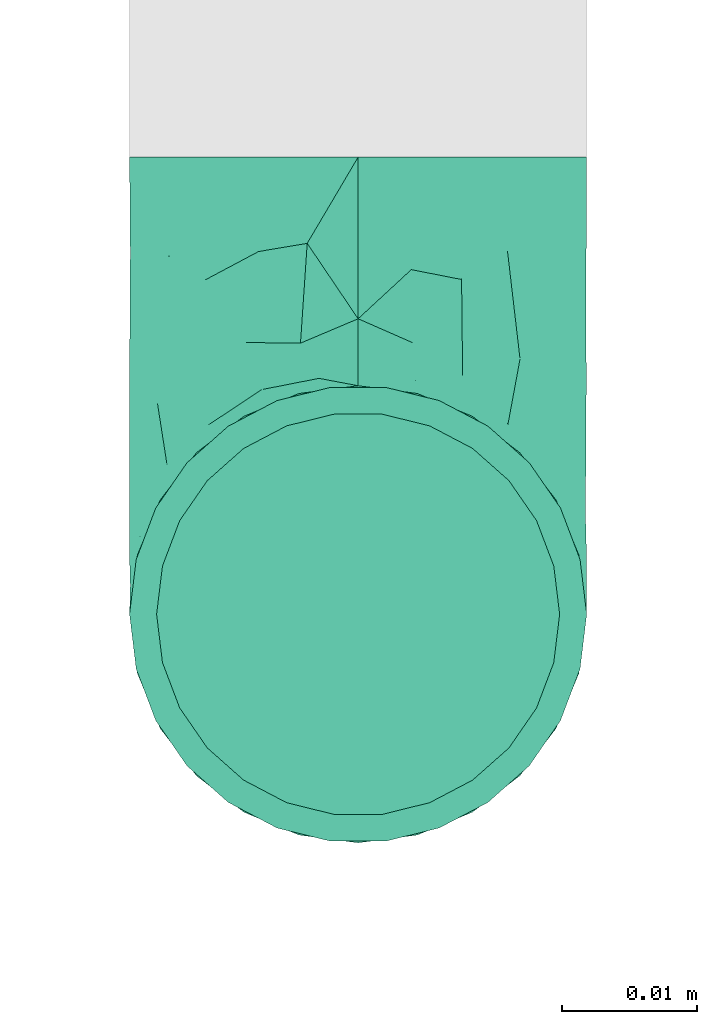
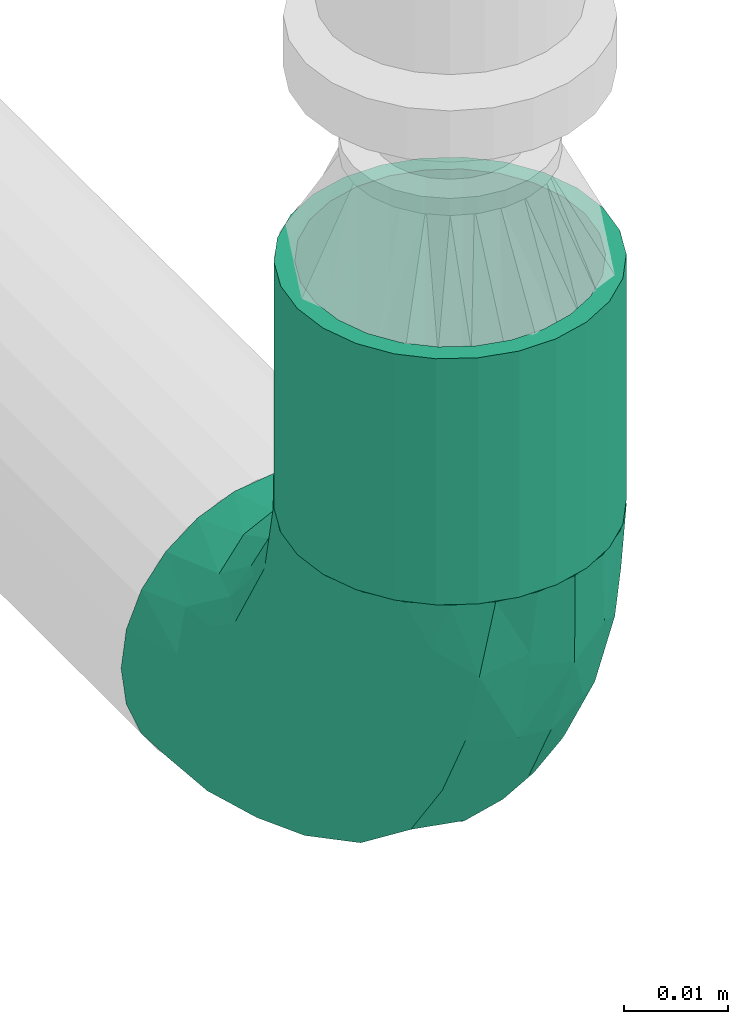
# One storey, part 2 of 31: 1 flow fitting, 1 flow segment.
"""IFC2X3 building model written with IfcOpenShell, lengths in millimetres."""

from ifc_helpers import new_model, entity, si_unit, converted_unit, derived_unit, direction, frame, origin_with_axes, origin_2d_with_axis, place, context, subcontext, project, spatial, hollow_circle, extrude, open_shell, surface_model, source, transform, mapped, type_object, element, save


model = new_model("IFC2X3")

# Units and contexts
model_context = context("Model", 3, precision=0.01, world=frame((0.0, 4.29681676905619e-09, 0.0)), true_north=direction((4.01073788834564e-13, 1.0)))
plan_context = context("Plan", 3, precision=0.01, world=frame((0.0, 4.29681676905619e-09, 0.0)), true_north=direction((4.01073788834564e-13, 1.0)))
body_context = subcontext(model_context, "Body", "Model", "MODEL_VIEW")
ifc_project = project(units=[converted_unit("PLANEANGLEUNIT", "DEGREE", entity("IfcPositiveLengthMeasure", 0.0174532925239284), si_unit("PLANEANGLEUNIT", "RADIAN"), dimensions=[0, 0, 0, 0, 0, 0, 0]), si_unit("AREAUNIT", "SQUARE_METRE"), si_unit("LENGTHUNIT", "METRE", prefix="MILLI"), si_unit("MASSUNIT", "GRAM", prefix="KILO"), si_unit("POWERUNIT", "WATT"), si_unit("PRESSUREUNIT", "PASCAL", prefix="KILO"), si_unit("FORCEUNIT", "NEWTON", prefix="KILO"), si_unit("ELECTRICVOLTAGEUNIT", "VOLT"), si_unit("ELECTRICCURRENTUNIT", "AMPERE"), si_unit("THERMODYNAMICTEMPERATUREUNIT", "DEGREE_CELSIUS"), si_unit("TIMEUNIT", "SECOND"), si_unit("VOLUMEUNIT", "CUBIC_METRE"), derived_unit("LINEARVELOCITYUNIT", [(si_unit("LENGTHUNIT", "METRE"), 1), (si_unit("TIMEUNIT", "SECOND"), -1)]), derived_unit("VOLUMETRICFLOWRATEUNIT", [(si_unit("VOLUMEUNIT", "CUBIC_METRE"), 1), (si_unit("TIMEUNIT", "SECOND"), -1)]), derived_unit("THERMALTRANSMITTANCEUNIT", [(si_unit("POWERUNIT", "WATT"), 1), (si_unit("THERMODYNAMICTEMPERATUREUNIT", "KELVIN"), -1), (si_unit("AREAUNIT", "SQUARE_METRE"), -1)]), derived_unit("SOUNDPRESSUREUNIT", [(si_unit("PRESSUREUNIT", "PASCAL"), 1)])], contexts=[model_context, plan_context])

# Site, building, storey
site_placement = place(None, frame((0.0, -4.29681676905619e-09, 0.0), z_axis=(0.0, 0.0, 1.0), x_axis=(1.0, 0.0, 0.0)))
site = spatial("IfcSite", under=ifc_project, at=site_placement, CompositionType="ELEMENT")
building_placement = place(site_placement, frame((0.0, 4.29681676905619e-09, 0.0), z_axis=(0.0, 0.0, 1.0), x_axis=(1.0, 0.0, 0.0)))
building = spatial("IfcBuilding", under=site, at=building_placement, Name="mc-building", CompositionType="ELEMENT")
storey_placement = place(building_placement, frame((0.0, 0.0, 200300.0), z_axis=(0.0, 0.0, 1.0), x_axis=(1.0, 0.0, 0.0)))
storey = spatial("IfcBuildingStorey", under=building, at=storey_placement, Name="Nivå C", CompositionType="ELEMENT", Elevation=200300.0)

# Flow fitting
pipe_fitting_type = type_object("IfcPipeFittingType", Name="magi_pipe_fe_elbow_short_001", PredefinedType="BEND")
shared_shape_1 = source(origin_with_axes(), body_context, "Body", "SurfaceModel", [
    surface_model("IfcShellBasedSurfaceModel", [(-33.8, 8.45, -14.63583), (-33.8, 4.37404, -16.32415), (-33.8, 11.9501, -11.9501), (-33.8, -11.9501, -11.9501), (-33.8, -14.63583, -8.45), (-33.8, -8.45, -14.63583), (-33.8, 0.0, -16.9), (-33.8, -4.37404, -16.32415), (-33.8, -4.37404, 16.32415), (-33.8, 0.0, 16.9), (-33.8, -8.45, 14.63583), (-33.8, 16.32415, -4.37404), (-33.8, 14.63583, -8.45), (-33.8, -16.32415, -4.37404), (-33.8, -16.9, 0.0), (-33.8, -16.32415, 4.37404), (-33.8, 11.9501, 11.9501), (-33.8, 14.63583, 8.45), (-33.8, 16.32415, 4.37404), (-33.8, 4.37404, 16.32415), (-33.8, 8.45, 14.63583), (-33.8, -14.63583, 8.45), (-33.8, -11.9501, 11.9501), (-33.8, 16.9, 0.0), (-11.9501, 33.8, -11.9501), (0.0, 33.8, -16.9), (-4.37404, 33.8, -16.32415), (-8.45, 33.8, -14.63583), (-14.63583, 33.8, -8.45), (-16.32415, 33.8, -4.37404), (14.63583, 33.8, -8.45), (8.45, 33.8, 14.63583), (16.32415, 33.8, -4.37404), (8.45, 33.8, -14.63583), (11.9501, 33.8, -11.9501), (4.37404, 33.8, -16.32415), (16.32415, 33.8, 4.37404), (16.9, 33.8, 0.0), (-11.9501, 33.8, 11.9501), (-16.32415, 33.8, 4.37404), (-14.63583, 33.8, 8.45), (-8.45, 33.8, 14.63583), (-4.37404, 33.8, 16.32415), (11.9501, 33.8, 11.9501), (14.63583, 33.8, 8.45), (0.0, 33.8, 16.9), (4.37404, 33.8, 16.32415), (-16.9, 33.8, 0.0), (-24.79389, -13.12945, 9.48721), (-22.19287, -9.75018, 12.59315), (-24.09897, -14.97035, 0.0), (-14.93934, -10.76256, 8.5297), (-22.46095, -14.75051, 5.27077), (14.75051, 22.46094, 5.27077), (11.9251, 13.23888, 4.33236), (13.04069, 14.39795, 0.0), (7.71387, 13.68847, 11.55891), (9.75018, 22.19287, 12.59315), (4.10169, 13.0571, 14.04018), (-24.84007, -6.39063, 15.2048), (-25.81779, -2.23879, 16.61097), (-23.66549, 2.59054, 16.87119), (-26.50418, 14.06512, 11.08152), (-24.21253, 17.66365, 7.72657), (-29.58514, 15.86957, 7.00283), (-6.17382, -7.5455, 0.0), (-13.23888, -11.9251, 4.33236), (-14.39795, -13.04069, 0.0), (-17.81434, 18.87373, 11.97104), (-6.30846, 29.15138, 15.82987), (-2.31622, 25.28002, 16.85849), (-29.23923, 10.23435, 13.77053), (-1.45439, -2.85688, 7.61475), (-0.28326, 0.34872, 10.09509), (-5.74484, -4.04709, 10.4122), (-4.41137, 11.31918, 16.59407), (-8.39727, 3.10034, 15.7812), (-1.72649, 9.1306, 15.53089), (-17.39909, 24.75344, 7.64977), (-26.19233, 20.0512, 0.0), (-28.14518, 17.29657, 4.25857), (-26.05147, 6.6281, 15.96447), (-5.87354, 16.61944, 16.86968), (-12.51807, 12.51807, 16.48937), (-10.06312, 7.38516, 16.81295), (-3.01882, 3.01882, 13.81718), (-13.0571, -4.10169, 14.04018), (-16.82553, -0.15166, 16.38038), (10.76256, 14.93934, 8.5297), (13.12945, 24.79389, 9.48721), (6.39063, 24.84007, 15.2048), (2.23879, 25.81779, 16.61097), (-13.68847, -7.71387, 11.55891), (14.97035, 24.09897, 0.0), (-7.30894, 22.89991, 16.09489), (-10.67958, 26.17414, 14.008), (-12.78295, 18.26924, 15.06066), (-13.88562, 22.45231, 12.93244), (-18.04944, 15.16501, 14.04434), (-23.11658, 20.08178, 4.02986), (-21.84989, 21.84989, 0.0), (-18.55817, 25.48277, 3.93065), (-13.95142, 26.94732, 11.03289), (-18.57098, 7.23906, 16.59756), (-16.58335, 4.14122, 16.89279), (-17.96666, 11.46709, 15.63151), (-9.84453, 17.54304, 16.18938), (0.15166, 16.82553, 16.38038), (-23.27207, 11.47201, 14.23154), (3.84842, 5.86994, 10.70473), (-8.0212, -7.54413, 7.93275), (1.00345, -2.19508, 4.57414), (5.13203, 3.01004, 5.90201), (5.24161, 1.7543, 2.53265), (8.70457, 7.04947, 3.99182), (-20.0512, 26.19233, 0.0), (8.4852, 8.76699, 7.09296), (-4.55488, -6.72064, 4.90681), (2.05031, -2.05031, 0.0), (7.5455, 6.17382, 0.0), (-26.75399, 2.1369, -16.845), (-14.61995, 24.73803, -11.27736), (-28.45274, -13.45335, -9.81895), (-26.00469, 6.63555, -15.96645), (-23.06726, 20.04573, -4.26202), (-13.80647, -4.26506, -14.17873), (-14.67501, -0.21081, -16.07388), (-6.7902, -0.2828, -13.8478), (-24.53586, 11.08096, -14.13417), (-26.72048, 14.00837, -11.05776), (10.0967, 24.44989, -12.75976), (5.83237, 21.40218, -15.03047), (6.66249, 28.54238, -15.38093), (-20.38182, 15.48705, -12.74596), (12.53268, 21.23441, -9.15363), (12.54494, 15.67504, -5.54878), (9.7522, 12.89279, -8.66343), (-15.65186, 19.64213, -13.01327), (-12.03528, 20.66498, -14.67665), (-15.61907, 15.61906, -14.83879), (-25.56551, -15.26206, 0.0), (-24.65452, -15.12934, -5.50955), (13.45335, 28.45274, -9.81895), (15.12934, 24.65452, -5.50955), (-7.35442, -8.31014, -5.65563), (-15.67504, -12.54494, -5.54878), (-24.44989, -10.0967, -12.75976), (0.16522, 0.41303, -9.71728), (-5.70658, -5.33066, -8.89288), (-5.13869, -2.37198, -11.53565), (-21.23441, -12.53268, -9.15363), (0.71146, 7.93863, -14.09382), (0.21081, 14.67501, -16.07388), (3.49291, 14.42772, -14.76381), (-24.89911, -2.13088, -16.591), (-28.54238, -6.66249, -15.38093), (-18.44386, -7.71663, -13.26957), (2.13088, 24.89911, -16.591), (-28.64342, 17.44413, -2.89318), (1.70017, -1.28722, -5.09504), (-16.57067, 26.81947, -7.36596), (-17.69055, 27.4263, -3.76405), (-12.89279, -9.7522, -8.66343), (-5.96611, 5.96611, -15.95814), (-20.53709, 20.09345, -8.28985), (-2.1369, 26.75399, -16.845), (-6.89872, 24.58781, -16.02578), (-10.60739, 26.53157, -13.98044), (-21.40218, -5.83237, -15.03047), (2.93192, 5.89627, -11.55917), (6.89393, 12.61842, -11.82233), (5.58056, 5.95325, -8.79455), (-3.99512, 18.61798, -16.89635), (8.31014, 7.35442, -5.65563), (-9.1383, 9.86148, -16.89041), (-9.99983, 16.02119, -16.39699), (-16.68576, 9.78031, -16.34199), (-27.01915, 16.61158, -7.12979), (15.26206, 25.56551, 0.0), (-18.61798, 3.99512, -16.89635), (-19.37495, 27.82495, 0.0), (-12.61842, -6.89393, -11.82233), (-18.84705, 19.14018, -10.96545)], [open_shell([[[0, 1, 2]], [[3, 4, 5]], [[6, 7, 5]], [[8, 9, 10]], [[1, 6, 2]], [[11, 12, 2]], [[4, 2, 6]], [[2, 13, 10]], [[5, 4, 6]], [[2, 4, 13]], [[14, 15, 13]], [[11, 2, 16]], [[11, 17, 18]], [[11, 16, 17]], [[19, 20, 16]], [[16, 2, 10]], [[19, 16, 10]], [[21, 22, 15]], [[22, 13, 15]], [[22, 10, 13]], [[10, 9, 19]], [[11, 18, 23]], [[24, 25, 26]], [[24, 26, 27]], [[24, 28, 29]], [[25, 24, 30]], [[31, 32, 24]], [[33, 30, 34]], [[33, 35, 25]], [[25, 30, 33]], [[32, 30, 24]], [[32, 36, 37]], [[38, 24, 29]], [[39, 40, 29]], [[40, 38, 29]], [[38, 41, 42]], [[38, 31, 24]], [[31, 38, 42]], [[36, 43, 44]], [[36, 32, 43]], [[31, 45, 46]], [[32, 31, 43]], [[42, 45, 31]], [[39, 29, 47]], [[22, 48, 49]], [[15, 14, 50]], [[51, 48, 52]], [[53, 54, 55]], [[48, 22, 21]], [[15, 52, 21]], [[56, 57, 58]], [[49, 10, 22]], [[49, 59, 10]], [[9, 60, 61]], [[62, 63, 64]], [[65, 66, 67]], [[57, 43, 31]], [[62, 68, 63]], [[42, 69, 70]], [[20, 71, 16]], [[8, 60, 9]], [[72, 73, 74]], [[75, 76, 77]], [[16, 62, 17]], [[40, 39, 78]], [[79, 23, 80]], [[64, 18, 17]], [[9, 61, 19]], [[19, 81, 20]], [[82, 83, 84]], [[74, 85, 86]], [[59, 86, 87]], [[88, 89, 57]], [[90, 31, 46]], [[44, 53, 36]], [[46, 45, 91]], [[54, 53, 88]], [[44, 89, 53]], [[92, 86, 49]], [[89, 44, 43]], [[10, 59, 8]], [[53, 55, 93]], [[93, 36, 53]], [[66, 52, 67]], [[94, 82, 70]], [[95, 96, 94]], [[97, 98, 96]], [[79, 99, 100]], [[41, 38, 95]], [[101, 100, 99]], [[68, 78, 63]], [[42, 41, 69]], [[23, 18, 80]], [[95, 94, 69]], [[78, 101, 99]], [[38, 102, 95]], [[70, 45, 42]], [[97, 95, 102]], [[15, 50, 52]], [[90, 57, 31]], [[57, 90, 58]], [[81, 19, 61]], [[103, 104, 84]], [[105, 81, 103]], [[38, 40, 102]], [[106, 96, 83]], [[94, 106, 82]], [[91, 70, 107]], [[71, 62, 16]], [[62, 108, 98]], [[86, 59, 49]], [[67, 52, 50]], [[60, 59, 87]], [[92, 49, 51]], [[86, 85, 76]], [[91, 90, 46]], [[37, 36, 93]], [[107, 77, 58]], [[107, 58, 90]], [[58, 85, 109]], [[110, 74, 92]], [[72, 74, 110]], [[66, 51, 52]], [[72, 111, 112]], [[113, 114, 112]], [[56, 88, 57]], [[52, 48, 21]], [[49, 48, 51]], [[57, 89, 43]], [[53, 89, 88]], [[103, 81, 61]], [[71, 81, 108]], [[18, 64, 80]], [[63, 78, 99]], [[47, 115, 101]], [[101, 115, 100]], [[40, 78, 102]], [[68, 102, 78]], [[97, 96, 95]], [[105, 98, 108]], [[103, 84, 83]], [[107, 70, 82]], [[76, 84, 87]], [[82, 84, 75]], [[70, 91, 45]], [[90, 91, 107]], [[59, 60, 8]], [[61, 60, 87]], [[73, 85, 74]], [[109, 112, 116]], [[103, 61, 104]], [[105, 103, 83]], [[96, 105, 83]], [[81, 105, 108]], [[96, 98, 105]], [[62, 98, 68]], [[61, 87, 104]], [[87, 84, 104]], [[86, 76, 87]], [[77, 76, 85]], [[58, 77, 85]], [[75, 77, 107]], [[82, 75, 107]], [[76, 75, 84]], [[81, 71, 20]], [[62, 71, 108]], [[95, 69, 41]], [[70, 69, 94]], [[62, 64, 17]], [[80, 63, 99]], [[63, 80, 64]], [[80, 99, 79]], [[66, 65, 117]], [[110, 66, 117]], [[112, 114, 116]], [[118, 117, 65]], [[110, 92, 51]], [[112, 111, 113]], [[119, 55, 54]], [[74, 86, 92]], [[58, 109, 56]], [[116, 56, 109]], [[66, 110, 51]], [[72, 110, 117]], [[111, 72, 117]], [[73, 112, 109]], [[117, 118, 111]], [[113, 111, 118]], [[118, 119, 113]], [[114, 119, 54]], [[119, 114, 113]], [[116, 54, 88]], [[54, 116, 114]], [[116, 88, 56]], [[112, 73, 72]], [[85, 73, 109]], [[78, 39, 101]], [[47, 101, 39]], [[102, 68, 97]], [[97, 68, 98]], [[82, 106, 83]], [[94, 96, 106]], [[1, 120, 6]], [[28, 24, 121]], [[3, 122, 4]], [[0, 123, 1]], [[100, 124, 79]], [[125, 126, 127]], [[128, 2, 129]], [[130, 131, 132]], [[128, 129, 133]], [[134, 135, 136]], [[137, 138, 139]], [[128, 0, 2]], [[67, 140, 141]], [[134, 142, 143]], [[141, 13, 4]], [[144, 65, 145]], [[146, 3, 5]], [[147, 148, 149]], [[145, 141, 150]], [[151, 152, 153]], [[154, 7, 6]], [[5, 155, 146]], [[150, 146, 156]], [[155, 5, 7]], [[143, 135, 134]], [[35, 157, 25]], [[23, 79, 158]], [[148, 159, 144]], [[160, 161, 29]], [[145, 162, 144]], [[163, 152, 151]], [[29, 28, 160]], [[121, 164, 160]], [[33, 34, 130]], [[25, 165, 26]], [[26, 165, 166]], [[142, 34, 30]], [[24, 27, 167]], [[124, 161, 164]], [[157, 35, 132]], [[155, 154, 168]], [[123, 0, 128]], [[169, 170, 171]], [[172, 157, 152]], [[26, 166, 27]], [[132, 35, 33]], [[142, 130, 34]], [[168, 154, 126]], [[136, 135, 173]], [[133, 137, 139]], [[2, 12, 129]], [[170, 131, 130]], [[30, 32, 143]], [[172, 174, 175]], [[176, 123, 128]], [[158, 177, 11]], [[135, 55, 119]], [[167, 27, 166]], [[175, 166, 172]], [[137, 167, 138]], [[122, 141, 4]], [[140, 14, 13]], [[32, 37, 178]], [[170, 130, 134]], [[152, 157, 131]], [[165, 157, 172]], [[153, 170, 151]], [[152, 163, 174]], [[168, 125, 156]], [[122, 146, 150]], [[120, 154, 6]], [[179, 174, 126]], [[179, 126, 154]], [[126, 163, 127]], [[162, 145, 150]], [[140, 13, 141]], [[32, 178, 143]], [[55, 143, 178]], [[177, 129, 12]], [[128, 133, 139]], [[176, 128, 139]], [[120, 123, 179]], [[121, 160, 28]], [[161, 100, 180]], [[166, 175, 138]], [[121, 24, 167]], [[161, 47, 29]], [[79, 124, 158]], [[124, 164, 177]], [[161, 124, 100]], [[136, 171, 170]], [[127, 163, 151]], [[147, 171, 159]], [[148, 144, 162]], [[127, 151, 169]], [[127, 181, 125]], [[129, 177, 164]], [[12, 11, 177]], [[159, 65, 144]], [[67, 141, 145]], [[143, 55, 135]], [[135, 119, 173]], [[123, 120, 1]], [[154, 120, 179]], [[157, 165, 25]], [[166, 165, 172]], [[172, 152, 174]], [[176, 139, 175]], [[126, 174, 163]], [[176, 174, 179]], [[174, 176, 175]], [[123, 176, 179]], [[150, 181, 162]], [[127, 149, 181]], [[181, 148, 162]], [[159, 148, 147]], [[171, 136, 173]], [[170, 134, 136]], [[159, 171, 173]], [[171, 147, 169]], [[169, 147, 149]], [[151, 170, 169]], [[164, 182, 129]], [[182, 121, 137]], [[181, 149, 148]], [[169, 149, 127]], [[182, 137, 133]], [[167, 137, 121]], [[166, 138, 167]], [[175, 139, 138]], [[129, 182, 133]], [[121, 182, 164]], [[161, 160, 164]], [[47, 161, 180]], [[177, 158, 124]], [[23, 158, 11]], [[130, 132, 33]], [[157, 132, 131]], [[143, 142, 30]], [[130, 142, 134]], [[154, 155, 7]], [[146, 155, 168]], [[146, 122, 3]], [[141, 122, 150]], [[152, 131, 153]], [[159, 119, 118]], [[67, 145, 65]], [[170, 153, 131]], [[119, 159, 173]], [[159, 118, 65]], [[156, 125, 181]], [[126, 125, 168]], [[150, 156, 181]], [[168, 156, 146]]])]),
])
flow_fitting_placement = place(storey_placement, frame((602500.0, 397923.19532, 2900.0), z_axis=(1.0, 0.0, 0.0), x_axis=(0.0, 0.0, -1.0)))
element("IfcFlowFitting", 1, at=flow_fitting_placement, inside=storey, type_object=pipe_fitting_type, Name="magi_pipe_fe_elbow_short_001", context=body_context, shape_type="MappedRepresentation", body=[
    mapped(shared_shape_1, transform((0.0, 0.0, 0.0), scale=1.0)),
])

# Flow segment
pipe_segment_type = type_object("IfcPipeSegmentType", Name="Stålrør normaltykke", PredefinedType="RIGIDSEGMENT")
shared_shape_2 = source(origin_with_axes(), body_context, "Body", "SweptSolid", [
    extrude(hollow_circle(Radius=16.9, WallThickness=2.0, at=origin_2d_with_axis()), frame((0.0, 0.0, 0.0), z_axis=(1.0, 0.0, 0.0), x_axis=(0.0, 1.0, 0.0)), (0.0, 0.0, 1.0), 28.8),
])
flow_segment_placement = place(storey_placement, frame((602500.0, 397923.19532, 2933.79999999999), z_axis=(0.0, 1.0, 0.0), x_axis=(0.0, 0.0, 1.0)))
element("IfcFlowSegment", 2, at=flow_segment_placement, inside=storey, type_object=pipe_segment_type, Name="Stålrør normaltykke", context=body_context, shape_type="MappedRepresentation", body=[
    mapped(shared_shape_2, transform((0.0, 0.0, 0.0), scale=1.0)),
])

save(model, "model.ifc")
